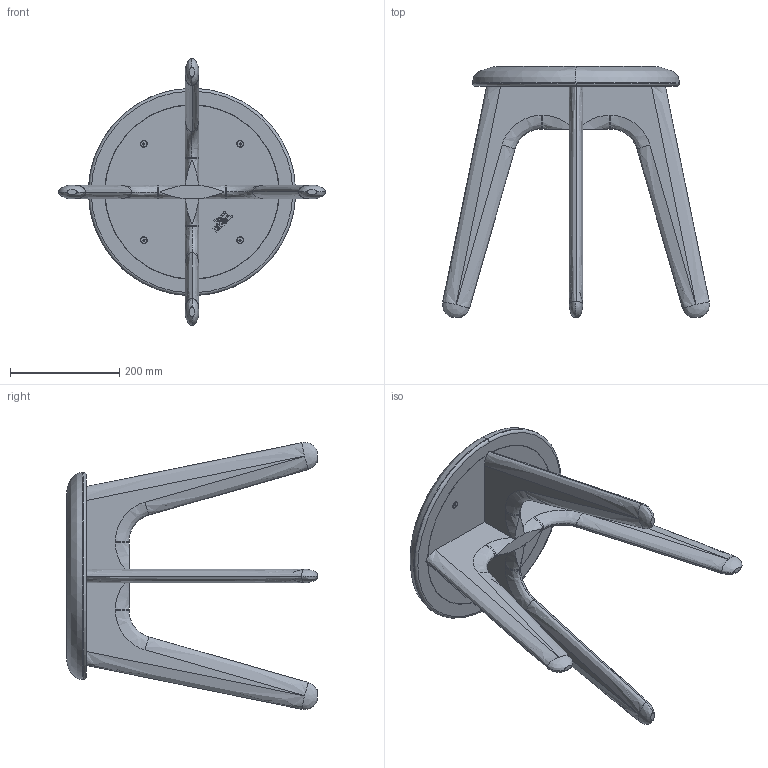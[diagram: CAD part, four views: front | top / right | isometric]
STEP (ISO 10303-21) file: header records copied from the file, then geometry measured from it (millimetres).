
FILE_DESCRIPTION (( 'STEP AP203' ), '1' );
FILE_NAME ('Slab Stool_Side Table.STEP', '2023-06-22T14:36:55', ( '' ), ( '' ), 'SwSTEP 2.0', 'SolidWorks 2022', '' );
FILE_SCHEMA (( 'CONFIG_CONTROL_DESIGN' ));
Length unit declared in the file: millimetre
Products named in the file (6): Slab Stool_Side Table; Upholstered Ply Base; Upholstered Seat Pad; socket countersunk head screw_iso(ISO 10642 - M6 x 20 - 20N); Leg 2; Leg 1
Assembly tree (8 placements, depth 2):
  Slab Stool_Side Table
    Leg 1
    Leg 2
    Upholstered Ply Base
    Upholstered Seat Pad
    socket countersunk head screw_iso(ISO 10642 - M6 x 20 - 20N)  x4
Bounding box: 489.84 x 460 x 489.84 mm (x, y, z)
Volume: 6805372.2 mm3; surface area: 786686 mm2
Topology: 8 solids, 8 shells, 401 faces, 961 edges, 590 vertices
Faces by surface type: plane 183, cylinder 78, bspline 78, cone 52, torus 10
Entity records: 12765 total; most frequent: CARTESIAN_POINT 5086, ORIENTED_EDGE 1566, DIRECTION 1239, EDGE_CURVE 783, VERTEX_POINT 497, AXIS2_PLACEMENT_3D 422, VECTOR 395, LINE 395
